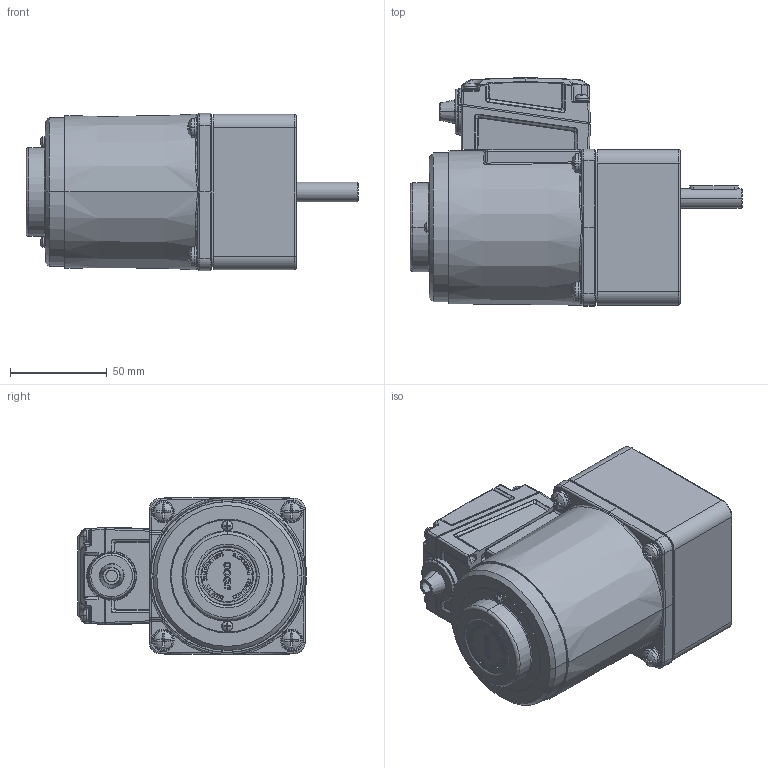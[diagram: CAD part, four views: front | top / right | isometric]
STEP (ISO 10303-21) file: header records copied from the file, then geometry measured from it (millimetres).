
FILE_DESCRIPTION( ('This file contains a STEP AP42 implementation' ,'as created by ZW3D STEP Interface translator.' ,'') ,'2;1' );
FILE_NAME( '25yt01-180.stp' ,'24 712.11 528', (''), ('ZWCAD Software Co.'), 'Version 1.0', 'ZW3D to STEP translator', '' );
FILE_SCHEMA(('AUTOMOTIVE_DESIGN { 1 0 10303 214 1 1 1 1 }'));
Length unit declared in the file: millimetre
Products named in the file (9): 0; 25yt01-180; 80YT25G_ASM; 80YT25G; YCX_6-200; 3D-JXH-150_300; 80GK-H-180_ASM; 80GK-H-180_1; 80GK-H-180_2
Assembly tree (7 placements, depth 3):
  0
  25yt01-180
    80YT25G_ASM
      80YT25G
      YCX_6-200
    3D-JXH-150_300
    80GK-H-180_ASM
      80GK-H-180_1
      80GK-H-180_2
Bounding box: 172 x 118.24 x 81.68 mm (x, y, z)
Volume: 428099.5 mm3; surface area: 132658.2 mm2
Topology: 5 solids, 16 shells, 2864 faces, 7195 edges, 4480 vertices
Faces by surface type: plane 1406, cylinder 640, bspline 635, cone 93, torus 76, sphere 14
Entity records: 131462 total; most frequent: CARTESIAN_POINT 66031, ORIENTED_EDGE 14354, DIRECTION 10859, EDGE_CURVE 7177, VERTEX_POINT 4480, VECTOR 3779, LINE 3779, AXIS2_PLACEMENT_3D 3540
